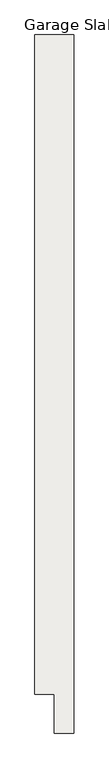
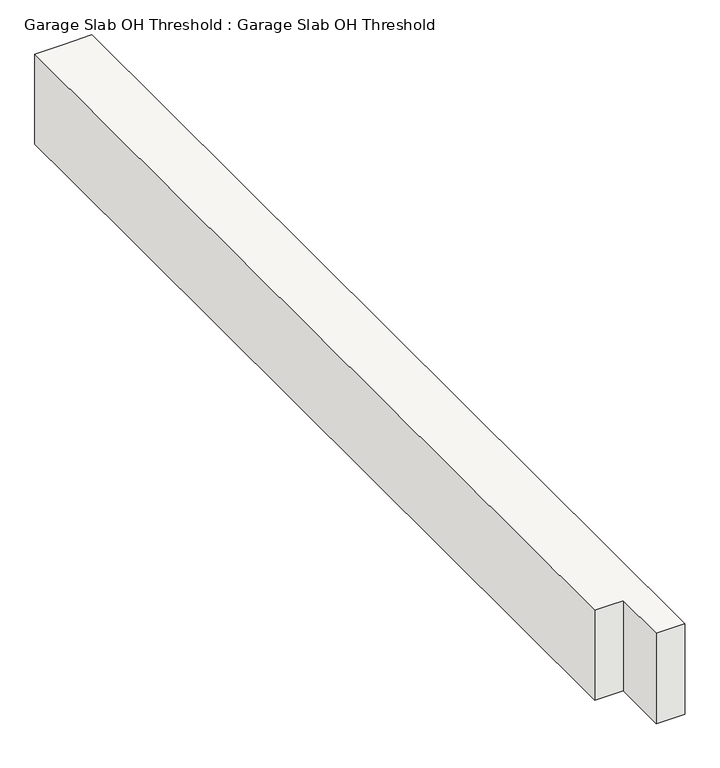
"""IFC4 building model written with IfcOpenShell, lengths in millimetres: slab geometry, Garage Slab OH Threshold : Garage Slab OH Threshold."""

from ifc_helpers import new_model, si_unit, origin, place, context, project, spatial, faceted_brep, source, transform, mapped, element, save


def garage_slab_oh_threshold_garage_slab_oh_threshold_0bd5272b(model_context):
    return source(origin(), model_context, "Body", "Brep", [
        faceted_brep([(-14942.4678637, 5177.3349287, -914.4), (-14942.4678637, 5177.3349287, -403.3871644), (-15094.8678637, 5177.3349287, -404.9119999), (-15094.8678637, 5177.3349287, -914.4), (-14942.4678637, 10663.7349287, -403.3871644), (-14942.4678637, 10663.7349287, -914.4), (-15094.8678637, 10663.7349287, -914.4), (-15247.2678637, 10663.7349287, -914.4), (-15247.2678637, 10663.7349287, -406.4368354), (-15094.8678637, 10663.7349287, -404.9119999), (-15094.8678637, 5482.1349287, -914.4), (-15247.2678637, 5482.1349287, -914.4), (-15247.2678637, 10358.9349287, -914.4), (-15247.2678637, 5482.1349287, -406.4368354), (-15094.8678637, 5482.1349287, -404.9119999)], [[[0, 1, 2, 3]], [[4, 5, 6, 7, 8, 9]], [[7, 6, 5, 0, 3, 10, 11, 12]], [[1, 0, 5, 4]], [[4, 9, 8, 13, 14, 2, 1]], [[8, 7, 12, 11, 13]], [[10, 14, 13, 11]], [[14, 10, 3, 2]]]),
    ])


if __name__ == "__main__":
    model = new_model("IFC4")
    model_context = context("Model", 3, world=origin())
    ifc_project = project(units=[si_unit("LENGTHUNIT", "METRE", prefix="MILLI")], contexts=[model_context])
    site = spatial("IfcSite", under=ifc_project)
    building = spatial("IfcBuilding", under=site)
    placement = place(None, origin())
    garage_slab_oh_threshold_garage_slab_oh_threshold_shape = garage_slab_oh_threshold_garage_slab_oh_threshold_0bd5272b(model_context)
    element("IfcSlab", 1, ObjectType="Garage Slab OH Threshold : Garage Slab OH Threshold", at=placement, inside=building, context=model_context, shape_type="MappedRepresentation", body=[
        mapped(garage_slab_oh_threshold_garage_slab_oh_threshold_shape, transform((0.0, 0.0, 0.0), x_axis=(1.0, 0.0, 0.0), y_axis=(0.0, 1.0, 0.0), z_axis=(0.0, 0.0, 1.0))),
    ])
    save(model, "model.ifc")
